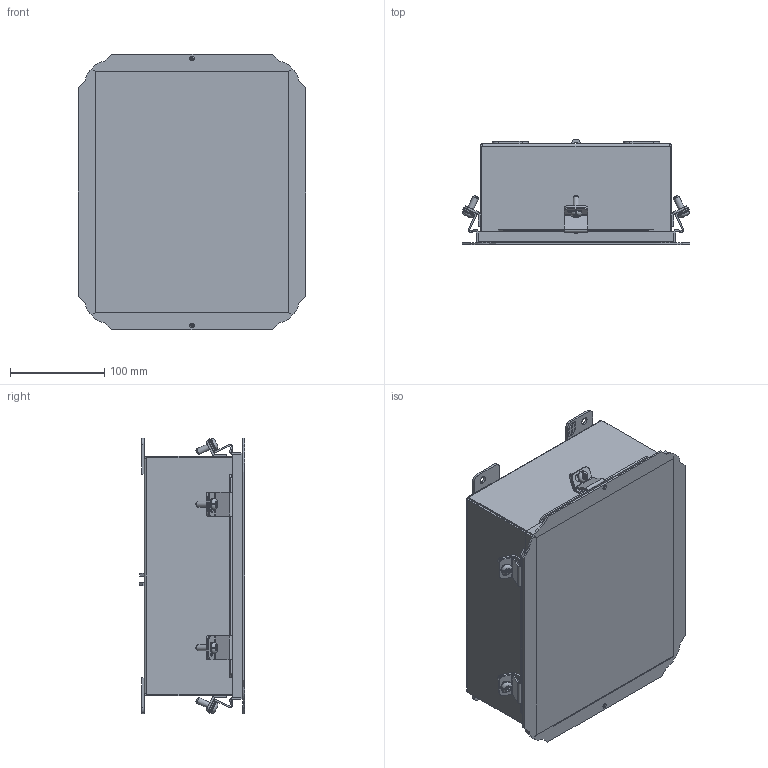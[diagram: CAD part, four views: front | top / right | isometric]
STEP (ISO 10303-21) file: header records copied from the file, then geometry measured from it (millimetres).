
FILE_DESCRIPTION(/* description */ ('Unknown'),/* implementation_level */ '2;1');
FILE_NAME(/* name */ '1414N4I',/* time_stamp */ '2018-09-12T16:06:07-04:00',/* author */ ('Unknown'),/* organization */ ('Unknown'),/* preprocessor_version */ 'ST-DEVELOPER v16.7',/* originating_system */ 'DEX',/* authorisation */ $);
FILE_SCHEMA (('AUTOMOTIVE_DESIGN {1 0 10303 214 3 1 1}'));
Length unit declared in the file: millimetre
Products named in the file (22): 1414N4I; COM42866; scs19420; COM50850; STD26152; COM40705; COM40229; QLB20285; KIT95026; NTS17050; NTS16500; LAB30005; scs18968; WAF250205; WAL251505; COM40183; std26020; BUL10020; COM70219_oa_0; COM40176
Assembly tree (43 placements, depth 3):
  1414N4I
    COM42866
    scs19420  x6
    COM50850  x4
    STD26152  x5
    COM40705
    COM40229  x6
    QLB20285
    KIT95026
      NTS17050
      NTS16500
      LAB30005
      scs18968
      WAF250205
      WAL251505
    COM40183
      std26020
      COM40183
      COM40183
    BUL10020
    COM70219_oa_0
    COM40176  x6
Bounding box: 241.3 x 111.67 x 292.1 mm (x, y, z)
Volume: 692901.5 mm3; surface area: 764247.4 mm2
Topology: 39 solids, 40 shells, 1359 faces, 3486 edges, 2251 vertices
Faces by surface type: plane 797, cylinder 277, bspline 161, torus 66, cone 58
Full cylindrical faces by diameter (mm): 3.967 x7, 4.699 x1, 4.775 x1, 5.41 x6, 5.461 x1, 6.35 x7, 6.731 x4, 7.925 x4, 9.525 x6, 9.779 x1, 12.192 x6, 12.7 x1
Entity records: 25933 total; most frequent: CARTESIAN_POINT 8190, ORIENTED_EDGE 3756, DIRECTION 3126, EDGE_CURVE 1878, VERTEX_POINT 1237, LINE 1166, VECTOR 1166, AXIS2_PLACEMENT_3D 980
